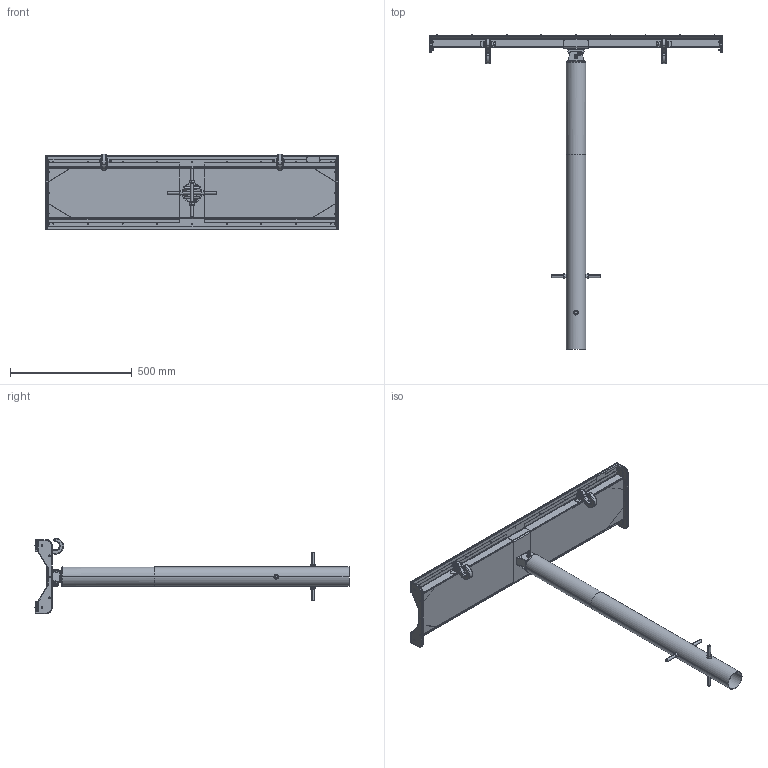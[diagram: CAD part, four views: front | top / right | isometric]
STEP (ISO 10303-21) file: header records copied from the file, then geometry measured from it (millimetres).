
FILE_DESCRIPTION (( 'STEP AP214' ), '1' );
FILE_NAME ('570.203.020.012 - Split Channel CA.STEP', '2021-03-25T11:11:50', ( '' ), ( '' ), 'SwSTEP 2.0', 'SolidWorks 2018', '' );
FILE_SCHEMA (( 'AUTOMOTIVE_DESIGN' ));
Length unit declared in the file: millimetre
Products named in the file (1): 570.203.020.012 - Split Channel CA
Bounding box: 1207.2 x 1292.01 x 310.61 mm (x, y, z)
Surface area: 1916516.7 mm2 (no closed solid volume)
Topology: 0 solids, 132 shells, 677 faces, 2175 edges, 1527 vertices
Faces by surface type: plane 254, cylinder 186, bspline 90, torus 73, sphere 44, cone 30
Entity records: 33466 total; most frequent: CARTESIAN_POINT 7759, DIRECTION 4083, ORIENTED_EDGE 3096, EDGE_CURVE 2133, AXIS2_PLACEMENT_3D 1637, VERTEX_POINT 1519, CIRCLE 1049, VECTOR 809
